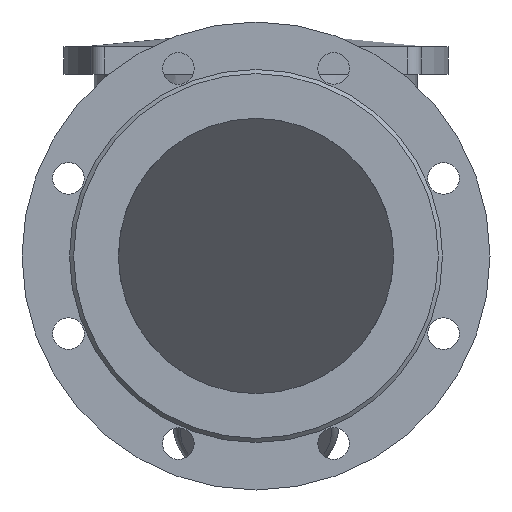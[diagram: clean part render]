
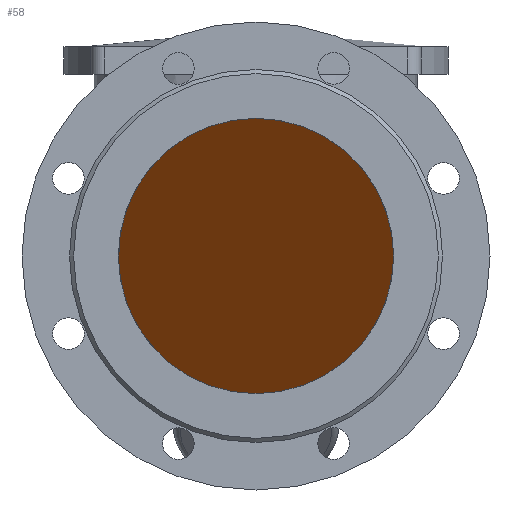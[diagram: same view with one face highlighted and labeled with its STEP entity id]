
A CAD part, front view. The second image highlights one B-rep face of the part: STEP entity #58.
In plain terms, the highlighted planar face has unit normal (0, -0.707, -0.707).
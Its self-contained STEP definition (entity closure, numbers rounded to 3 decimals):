
#58=ADVANCED_FACE('',(#662),#664,.T.);
#662=FACE_BOUND('',#663,.T.);
#663=EDGE_LOOP('',(#2457));
#664=PLANE('',#665);
#665=AXIS2_PLACEMENT_3D('',#666,#667,#668);
#666=CARTESIAN_POINT('',(-170.,-134.235,134.235));
#667=DIRECTION('',(0.,-0.707,-0.707));
#668=DIRECTION('',(0.,0.707,-0.707));
#2457=ORIENTED_EDGE('',*,*,#2726,.T.);
#2726=EDGE_CURVE('',#2857,#2857,#2858,.F.);
#2857=VERTEX_POINT('',#3084);
#2858=(BOUNDED_CURVE()B_SPLINE_CURVE(3,
(#3085,#3086,#3087,#3088,#3089,#3090,#3091),
.UNSPECIFIED.,.T.,.F.)B_SPLINE_CURVE_WITH_KNOTS((4,3,4),
(0.,0.5,1.),
.UNSPECIFIED.)CURVE()GEOMETRIC_REPRESENTATION_ITEM()RATIONAL_B_SPLINE_CURVE((1.,
0.333,0.333,1.,0.333,0.333,1.))
REPRESENTATION_ITEM(''));
#3084=CARTESIAN_POINT('',(0.,-100.,100.));
#3085=CARTESIAN_POINT('',(0.,-100.,100.));
#3086=CARTESIAN_POINT('',(200.,-100.,100.));
#3087=CARTESIAN_POINT('',(200.,100.,-100.));
#3088=CARTESIAN_POINT('',(0.,100.,-100.));
#3089=CARTESIAN_POINT('',(-200.,100.,-100.));
#3090=CARTESIAN_POINT('',(-200.,-100.,100.));
#3091=CARTESIAN_POINT('',(0.,-100.,100.));
